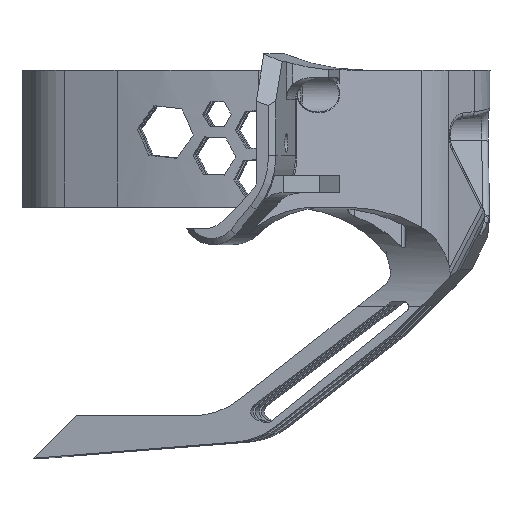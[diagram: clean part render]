
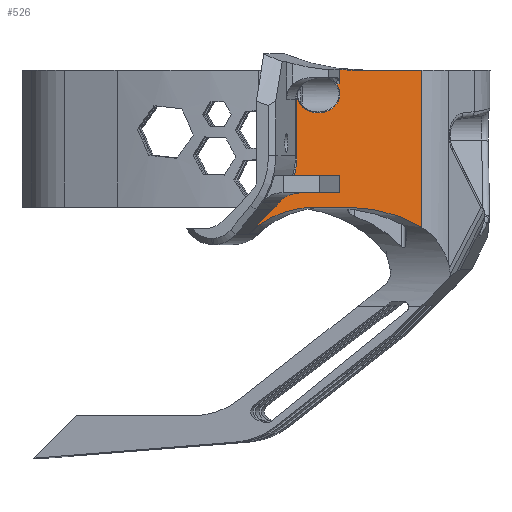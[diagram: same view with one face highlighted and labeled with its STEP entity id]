
A CAD part, front view. The second image highlights one B-rep face of the part: STEP entity #526.
In plain terms, the highlighted planar face has unit normal (0.586, -0.81, 0).
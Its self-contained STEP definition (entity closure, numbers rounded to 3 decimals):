
#446=ELLIPSE('',#5188,4.25,3.05);
#447=ELLIPSE('',#5189,4.164,2.9);
#448=ELLIPSE('',#5190,20.247,14.1);
#449=ELLIPSE('',#5191,5.026,3.5);
#450=ELLIPSE('',#5192,19.386,13.5);
#451=ELLIPSE('',#5193,17.232,12.);
#452=ELLIPSE('',#5194,24.456,16.);
#453=ELLIPSE('',#5195,35.9,25.);
#526=ADVANCED_FACE('',(#914),#760,.T.);
#760=PLANE('',#5196);
#914=FACE_OUTER_BOUND('',#1167,.T.);
#1167=EDGE_LOOP('',(#1751,#1752,#1753,#1754,#1755,#1756,#1757,#1758,#1759,
#1760,#1761,#1762,#1763,#1764,#1765,#1766,#1767,#1768));
#1751=ORIENTED_EDGE('',*,*,#3690,.T.);
#1752=ORIENTED_EDGE('',*,*,#3691,.T.);
#1753=ORIENTED_EDGE('',*,*,#3692,.T.);
#1754=ORIENTED_EDGE('',*,*,#3693,.T.);
#1755=ORIENTED_EDGE('',*,*,#3694,.T.);
#1756=ORIENTED_EDGE('',*,*,#3695,.F.);
#1757=ORIENTED_EDGE('',*,*,#3696,.T.);
#1758=ORIENTED_EDGE('',*,*,#3697,.T.);
#1759=ORIENTED_EDGE('',*,*,#3698,.T.);
#1760=ORIENTED_EDGE('',*,*,#3699,.F.);
#1761=ORIENTED_EDGE('',*,*,#3700,.T.);
#1762=ORIENTED_EDGE('',*,*,#3701,.F.);
#1763=ORIENTED_EDGE('',*,*,#3702,.T.);
#1764=ORIENTED_EDGE('',*,*,#3703,.T.);
#1765=ORIENTED_EDGE('',*,*,#3641,.T.);
#1766=ORIENTED_EDGE('',*,*,#3704,.T.);
#1767=ORIENTED_EDGE('',*,*,#3705,.F.);
#1768=ORIENTED_EDGE('',*,*,#3706,.T.);
#3131=VERTEX_POINT('',#7432);
#3132=VERTEX_POINT('',#7434);
#3173=VERTEX_POINT('',#7634);
#3174=VERTEX_POINT('',#7635);
#3175=VERTEX_POINT('',#7637);
#3176=VERTEX_POINT('',#7639);
#3177=VERTEX_POINT('',#7641);
#3178=VERTEX_POINT('',#7643);
#3179=VERTEX_POINT('',#7645);
#3180=VERTEX_POINT('',#7647);
#3181=VERTEX_POINT('',#7649);
#3182=VERTEX_POINT('',#7651);
#3183=VERTEX_POINT('',#7653);
#3184=VERTEX_POINT('',#7655);
#3185=VERTEX_POINT('',#7657);
#3186=VERTEX_POINT('',#7659);
#3187=VERTEX_POINT('',#7662);
#3188=VERTEX_POINT('',#7664);
#3641=EDGE_CURVE('',#3132,#3131,#4292,.T.);
#3690=EDGE_CURVE('',#3173,#3174,#446,.T.);
#3691=EDGE_CURVE('',#3174,#3175,#447,.T.);
#3692=EDGE_CURVE('',#3175,#3176,#4311,.T.);
#3693=EDGE_CURVE('',#3176,#3177,#448,.T.);
#3694=EDGE_CURVE('',#3177,#3178,#4312,.T.);
#3695=EDGE_CURVE('',#3179,#3178,#4313,.T.);
#3696=EDGE_CURVE('',#3179,#3180,#4314,.T.);
#3697=EDGE_CURVE('',#3180,#3181,#449,.T.);
#3698=EDGE_CURVE('',#3181,#3182,#450,.T.);
#3699=EDGE_CURVE('',#3183,#3182,#4315,.T.);
#3700=EDGE_CURVE('',#3183,#3184,#451,.T.);
#3701=EDGE_CURVE('',#3185,#3184,#4316,.T.);
#3702=EDGE_CURVE('',#3185,#3186,#452,.T.);
#3703=EDGE_CURVE('',#3186,#3132,#4317,.T.);
#3704=EDGE_CURVE('',#3131,#3187,#453,.T.);
#3705=EDGE_CURVE('',#3188,#3187,#4318,.T.);
#3706=EDGE_CURVE('',#3188,#3173,#4319,.T.);
#4292=LINE('',#7433,#4759);
#4311=LINE('',#7638,#4778);
#4312=LINE('',#7642,#4779);
#4313=LINE('',#7644,#4780);
#4314=LINE('',#7646,#4781);
#4315=LINE('',#7652,#4782);
#4316=LINE('',#7656,#4783);
#4317=LINE('',#7660,#4784);
#4318=LINE('',#7663,#4785);
#4319=LINE('',#7665,#4786);
#4759=VECTOR('',#5908,1.);
#4778=VECTOR('',#5975,1.);
#4779=VECTOR('',#5978,1.);
#4780=VECTOR('',#5979,1.);
#4781=VECTOR('',#5980,1.);
#4782=VECTOR('',#5985,1.);
#4783=VECTOR('',#5988,1.);
#4784=VECTOR('',#5991,1.);
#4785=VECTOR('',#5994,1.);
#4786=VECTOR('',#5995,1.);
#5188=AXIS2_PLACEMENT_3D('',#7633,#5971,#5972);
#5189=AXIS2_PLACEMENT_3D('',#7636,#5973,#5974);
#5190=AXIS2_PLACEMENT_3D('',#7640,#5976,#5977);
#5191=AXIS2_PLACEMENT_3D('',#7648,#5981,#5982);
#5192=AXIS2_PLACEMENT_3D('',#7650,#5983,#5984);
#5193=AXIS2_PLACEMENT_3D('',#7654,#5986,#5987);
#5194=AXIS2_PLACEMENT_3D('',#7658,#5989,#5990);
#5195=AXIS2_PLACEMENT_3D('',#7661,#5992,#5993);
#5196=AXIS2_PLACEMENT_3D('',#7666,#5996,#5997);
#5908=DIRECTION('',(-0.81,-0.586,0.));
#5971=DIRECTION('',(-0.586,0.81,0.));
#5972=DIRECTION('',(0.81,0.586,0.));
#5973=DIRECTION('',(0.586,-0.81,0.));
#5974=DIRECTION('',(0.81,0.586,0.));
#5975=DIRECTION('',(0.,0.,-1.));
#5976=DIRECTION('',(-0.586,0.81,0.));
#5977=DIRECTION('',(-0.81,-0.586,0.));
#5978=DIRECTION('',(0.81,0.586,0.));
#5979=DIRECTION('',(0.,0.,1.));
#5980=DIRECTION('',(-0.81,-0.586,0.));
#5981=DIRECTION('',(0.586,-0.81,0.));
#5982=DIRECTION('',(-0.81,-0.586,0.));
#5983=DIRECTION('',(-0.586,0.81,0.));
#5984=DIRECTION('',(-0.81,-0.586,0.));
#5985=DIRECTION('',(0.624,0.451,0.638));
#5986=DIRECTION('',(-0.586,0.81,0.));
#5987=DIRECTION('',(0.81,0.586,0.));
#5988=DIRECTION('',(-0.81,-0.586,0.));
#5989=DIRECTION('',(-0.586,0.81,0.));
#5990=DIRECTION('',(-0.81,-0.586,0.));
#5991=DIRECTION('',(0.,0.,1.));
#5992=DIRECTION('',(-0.586,0.81,0.));
#5993=DIRECTION('',(-0.81,-0.586,0.));
#5994=DIRECTION('',(0.,0.,1.));
#5995=DIRECTION('',(-0.81,-0.586,0.));
#5996=DIRECTION('',(0.586,-0.81,0.));
#5997=DIRECTION('',(-0.81,-0.586,0.));
#7432=CARTESIAN_POINT('',(7.043,-41.51,10.236));
#7433=CARTESIAN_POINT('',(-10.06,-53.873,10.236));
#7434=CARTESIAN_POINT('',(17.804,-33.731,10.236));
#7633=CARTESIAN_POINT('',(1.173,-45.753,6.412));
#7634=CARTESIAN_POINT('',(4.096,-43.64,8.025));
#7635=CARTESIAN_POINT('',(-2.227,-48.211,5.925));
#7636=CARTESIAN_POINT('',(1.115,-45.795,5.525));
#7637=CARTESIAN_POINT('',(-2.26,-48.235,5.525));
#7638=CARTESIAN_POINT('',(-2.26,-48.235,5.525));
#7639=CARTESIAN_POINT('',(-2.26,-48.235,-3.47));
#7640=CARTESIAN_POINT('',(-18.669,-60.096,-3.47));
#7641=CARTESIAN_POINT('',(-2.697,-48.55,-6.702));
#7642=CARTESIAN_POINT('',(-10.06,-53.873,-6.702));
#7643=CARTESIAN_POINT('',(4.526,-43.33,-6.702));
#7644=CARTESIAN_POINT('',(4.526,-43.33,10.236));
#7645=CARTESIAN_POINT('',(4.526,-43.33,-9.47));
#7646=CARTESIAN_POINT('',(-10.06,-53.873,-9.47));
#7647=CARTESIAN_POINT('',(-1.761,-47.874,-9.47));
#7648=CARTESIAN_POINT('',(-1.761,-47.874,-12.97));
#7649=CARTESIAN_POINT('',(-5.139,-50.316,-11.014));
#7650=CARTESIAN_POINT('',(-18.168,-59.734,-3.47));
#7651=CARTESIAN_POINT('',(-6.147,-51.045,-12.162));
#7652=CARTESIAN_POINT('',(0.446,-46.278,-5.43));
#7653=CARTESIAN_POINT('',(-9.943,-53.788,-16.038));
#7654=CARTESIAN_POINT('',(0.742,-46.064,-23.764));
#7655=CARTESIAN_POINT('',(0.742,-46.064,-11.764));
#7656=CARTESIAN_POINT('',(-10.06,-53.873,-11.764));
#7657=CARTESIAN_POINT('',(5.843,-42.377,-11.764));
#7658=CARTESIAN_POINT('',(5.843,-42.377,-27.764));
#7659=CARTESIAN_POINT('',(17.804,-33.731,-15.006));
#7660=CARTESIAN_POINT('',(17.804,-33.731,10.236));
#7661=CARTESIAN_POINT('',(7.043,-41.51,35.236));
#7662=CARTESIAN_POINT('',(4.526,-43.33,10.329));
#7663=CARTESIAN_POINT('',(4.526,-43.33,10.236));
#7664=CARTESIAN_POINT('',(4.526,-43.33,8.025));
#7665=CARTESIAN_POINT('',(-10.06,-53.873,8.025));
#7666=CARTESIAN_POINT('',(-10.06,-53.873,10.236));
